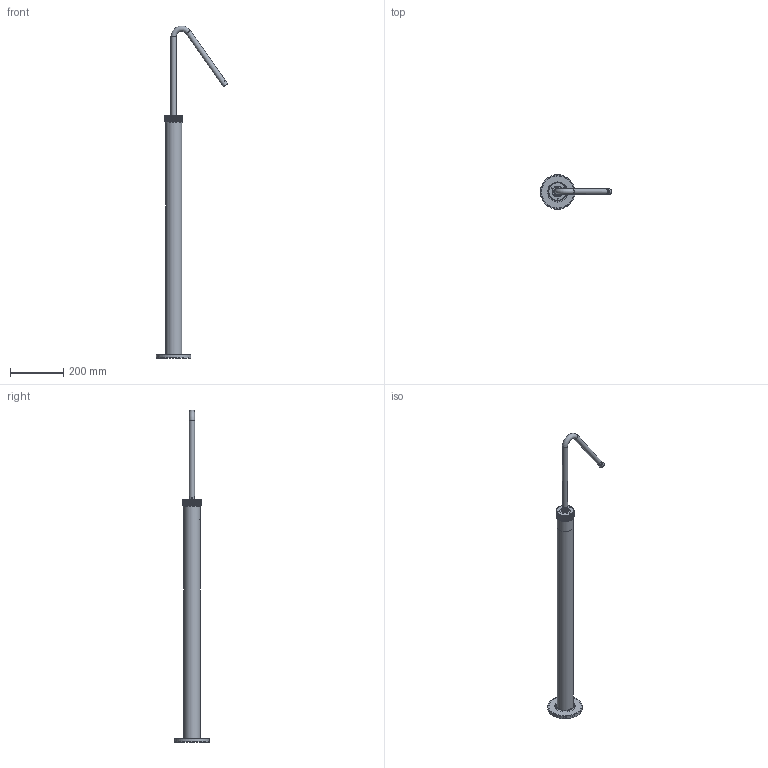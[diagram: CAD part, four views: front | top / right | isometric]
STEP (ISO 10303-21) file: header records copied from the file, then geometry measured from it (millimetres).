
FILE_DESCRIPTION(/* description */ ('Unknown'),/* implementation_level */ '2;1');
FILE_NAME(/* name */ 'RN022',/* time_stamp */ '2023-03-02T08:23:53+01:00',/* author */ ('Unknown'),/* organization */ ('Unknown'),/* preprocessor_version */ 'ST-DEVELOPER v18.102',/* originating_system */ 'Solid Edge',/* authorisation */ 'Unknown');
FILE_SCHEMA (('AUTOMOTIVE_DESIGN {1 0 10303 214 3 1 1}'));
Products named in the file (37): RN022; RN030-01; RN022-01; RN001-09; or 59.9x2.62; RN001-01; 22016; 22036_SOLID_1; 22014; 22018; 22015; 22017; 22004_SOLID_1; 22020; 100M50800; 13106; 13104_ATT; 15008; 15004; RN001-06; RN001-02; RN001-10; RN001-05; OR-12.42x1.78; RN001-001; RN001-03; RN001-002; RN001-07; OR-1.78x1.78; RN001-08; RN022-02; 44.3256.450; CB003-002-1; CB003-002-2; CB003-002-3; CB003-002-4; RN001-12
Assembly tree (39 placements, depth 4):
  RN022
    RN030-01
    RN022-01
    RN001-09
    or 59.9x2.62
    RN001-01
    22016
      22036_SOLID_1
      22014
      22018
      22015
      22017
      22004_SOLID_1
      22020
      100M50800
      13106
      13104_ATT
      15008
      15004
    RN001-06
    RN001-02
    RN001-10
    RN001-05
    OR-12.42x1.78  x2
    RN001-001
      RN001-03
      RN001-002  x3
        RN001-07
        OR-1.78x1.78
    RN001-08
    RN022-02
    44.3256.450
      CB003-002-1
      CB003-002-2
      CB003-002-3
      CB003-002-4
    RN001-12
Bounding box: 268.19 x 130 x 1248.3 mm (x, y, z)
Volume: 703088.8 mm3; surface area: 502681.9 mm2
Topology: 40 solids, 40 shells, 3357 faces, 7957 edges, 4738 vertices
Faces by surface type: plane 1113, cylinder 917, cone 675, torus 462, bspline 160, sphere 30
Full cylindrical faces by diameter (mm): 2 x3, 2.2 x3, 2.4 x3, 2.459 x6, 2.5 x1, 3 x3, 3.242 x3, 3.5 x3, 4 x3, 4.7 x3, 5 x6, 6 x2, 6.2 x1, 8.3 x1, 8.8 x1, 8.917 x4, 9 x3, 9.8 x1, 10.2 x2, 10.8 x3, 11 x3, 11.027 x2, 12.159 x1, 12.196 x1, 12.45 x1, 12.5 x1, 12.9 x2, 13.3 x4, 13.464 x1, 14.2 x1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
Entity records: 111354 total; most frequent: CARTESIAN_POINT 27181, DIRECTION 15666, ORIENTED_EDGE 14774, EDGE_CURVE 7387, AXIS2_PLACEMENT_3D 6555, VERTEX_POINT 4556, FACE_BOUND 3777, EDGE_LOOP 3760
